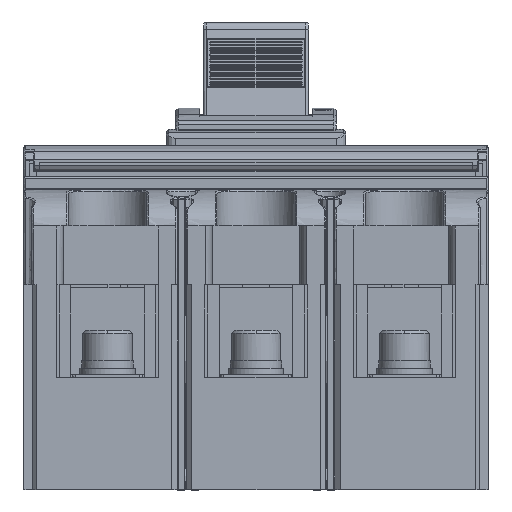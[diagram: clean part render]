
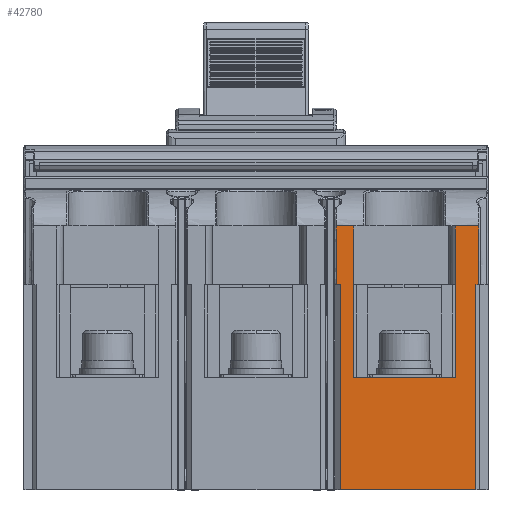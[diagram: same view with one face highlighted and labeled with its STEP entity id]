
A CAD part, front view. The second image highlights one B-rep face of the part: STEP entity #42780.
In plain terms, the highlighted free-form (B-spline) face has degree [1, 1] with [2, 2] control points.
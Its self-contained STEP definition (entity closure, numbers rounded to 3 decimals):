
#35756 = CARTESIAN_POINT ('', (31.6, -128.5, 86.342));
#35757 = VERTEX_POINT ('', #35756);
#35765 = CARTESIAN_POINT ('', (31.6, -128.5, 67.295));
#35766 = VERTEX_POINT ('', #35765);
#35767 = CARTESIAN_POINT ('', (31.6, -128.5, 67.295));
#35768 = CARTESIAN_POINT ('', (31.6, -128.5, 86.342));
#35769 = B_SPLINE_CURVE_WITH_KNOTS ('', 1, (#35767, #35768), .UNSPECIFIED., .F., .U., (2, 2), (0., 1.), .UNSPECIFIED.);
#35770 = EDGE_CURVE ('', #35766, #35757, #35769, .T.);
#35787 = CARTESIAN_POINT ('', (31.4, -128.5, 67.295));
#35788 = VERTEX_POINT ('', #35787);
#35789 = CARTESIAN_POINT ('', (31.4, -128.5, 67.295));
#35790 = CARTESIAN_POINT ('', (31.6, -128.5, 67.295));
#35791 = B_SPLINE_CURVE_WITH_KNOTS ('', 1, (#35789, #35790), .UNSPECIFIED., .F., .U., (2, 2), (0., 1.), .UNSPECIFIED.);
#35792 = EDGE_CURVE ('', #35788, #35766, #35791, .T.);
#36018 = CARTESIAN_POINT ('', (64.6, -128.5, 67.295));
#36019 = VERTEX_POINT ('', #36018);
#36025 = CARTESIAN_POINT ('', (64.4, -128.5, 67.295));
#36026 = VERTEX_POINT ('', #36025);
#36027 = CARTESIAN_POINT ('', (64.4, -128.5, 67.295));
#36028 = CARTESIAN_POINT ('', (64.6, -128.5, 67.295));
#36029 = B_SPLINE_CURVE_WITH_KNOTS ('', 1, (#36027, #36028), .UNSPECIFIED., .F., .U., (2, 2), (0., 1.), .UNSPECIFIED.);
#36030 = EDGE_CURVE ('', #36026, #36019, #36029, .T.);
#36229 = CARTESIAN_POINT ('', (64.4, -128.5, 86.342));
#36230 = VERTEX_POINT ('', #36229);
#36231 = CARTESIAN_POINT ('', (64.4, -128.5, 67.295));
#36232 = CARTESIAN_POINT ('', (64.4, -128.5, 86.342));
#36233 = B_SPLINE_CURVE_WITH_KNOTS ('', 1, (#36231, #36232), .UNSPECIFIED., .F., .U., (2, 2), (0., 1.), .UNSPECIFIED.);
#36234 = EDGE_CURVE ('', #36026, #36230, #36233, .T.);
#36710 = CARTESIAN_POINT ('', (71.95, -128.5, 86.342));
#36711 = VERTEX_POINT ('', #36710);
#36712 = CARTESIAN_POINT ('', (64.4, -128.5, 86.342));
#36713 = CARTESIAN_POINT ('', (71.95, -128.5, 86.342));
#36714 = B_SPLINE_CURVE_WITH_KNOTS ('', 1, (#36712, #36713), .UNSPECIFIED., .F., .U., (2, 2), (0., 1.), .UNSPECIFIED.);
#36715 = EDGE_CURVE ('', #36230, #36711, #36714, .T.);
#40762 = CARTESIAN_POINT ('', (25.9, -128.5, 86.342));
#40763 = VERTEX_POINT ('', #40762);
#40774 = CARTESIAN_POINT ('', (25.9, -128.5, 86.342));
#40775 = CARTESIAN_POINT ('', (31.6, -128.5, 86.342));
#40776 = B_SPLINE_CURVE_WITH_KNOTS ('', 1, (#40774, #40775), .UNSPECIFIED., .F., .U., (2, 2), (0., 1.), .UNSPECIFIED.);
#40777 = EDGE_CURVE ('', #40763, #35757, #40776, .T.);
#42606 = CARTESIAN_POINT ('', (27.199, -128.5, 67.295));
#42607 = VERTEX_POINT ('', #42606);
#42615 = CARTESIAN_POINT ('', (25.9, -128.5, 67.295));
#42616 = VERTEX_POINT ('', #42615);
#42617 = CARTESIAN_POINT ('', (25.9, -128.5, 67.295));
#42618 = CARTESIAN_POINT ('', (27.199, -128.5, 67.295));
#42619 = B_SPLINE_CURVE_WITH_KNOTS ('', 1, (#42617, #42618), .UNSPECIFIED., .F., .U., (2, 2), (0., 1.), .UNSPECIFIED.);
#42620 = EDGE_CURVE ('', #42616, #42607, #42619, .T.);
#42694 = CARTESIAN_POINT ('', (27.199, -128.5, 1.));
#42695 = VERTEX_POINT ('', #42694);
#42701 = CARTESIAN_POINT ('', (27.199, -128.5, 1.));
#42702 = CARTESIAN_POINT ('', (27.199, -128.5, 67.295));
#42703 = B_SPLINE_CURVE_WITH_KNOTS ('', 1, (#42701, #42702), .UNSPECIFIED., .F., .U., (2, 2), (0., 1.), .UNSPECIFIED.);
#42704 = EDGE_CURVE ('', #42695, #42607, #42703, .T.);
#42715 = CARTESIAN_POINT ('', (31.4, -128.5, 37.413));
#42716 = VERTEX_POINT ('', #42715);
#42717 = CARTESIAN_POINT ('', (64.6, -128.5, 37.413));
#42718 = VERTEX_POINT ('', #42717);
#42719 = CARTESIAN_POINT ('', (31.4, -128.5, 37.413));
#42720 = CARTESIAN_POINT ('', (64.6, -128.5, 37.413));
#42721 = B_SPLINE_CURVE_WITH_KNOTS ('', 1, (#42719, #42720), .UNSPECIFIED., .F., .U., (2, 2), (0., 1.), .UNSPECIFIED.);
#42722 = EDGE_CURVE ('', #42716, #42718, #42721, .T.);
#42723 = ORIENTED_EDGE ('', *, *, #42722, .F.);
#42724 = CARTESIAN_POINT ('', (31.4, -128.5, 67.295));
#42725 = CARTESIAN_POINT ('', (31.4, -128.5, 37.413));
#42726 = B_SPLINE_CURVE_WITH_KNOTS ('', 1, (#42724, #42725), .UNSPECIFIED., .F., .U., (2, 2), (0., 1.), .UNSPECIFIED.);
#42727 = EDGE_CURVE ('', #35788, #42716, #42726, .T.);
#42728 = ORIENTED_EDGE ('', *, *, #42727, .F.);
#42729 = ORIENTED_EDGE ('', *, *, #35792, .T.);
#42730 = ORIENTED_EDGE ('', *, *, #35770, .T.);
#42731 = ORIENTED_EDGE ('', *, *, #40777, .F.);
#42732 = CARTESIAN_POINT ('', (25.9, -128.5, 86.342));
#42733 = CARTESIAN_POINT ('', (25.9, -128.5, 67.295));
#42734 = B_SPLINE_CURVE_WITH_KNOTS ('', 1, (#42732, #42733), .UNSPECIFIED., .F., .U., (2, 2), (0., 1.), .UNSPECIFIED.);
#42735 = EDGE_CURVE ('', #40763, #42616, #42734, .T.);
#42736 = ORIENTED_EDGE ('', *, *, #42735, .T.);
#42737 = ORIENTED_EDGE ('', *, *, #42620, .T.);
#42738 = ORIENTED_EDGE ('', *, *, #42704, .F.);
#42739 = CARTESIAN_POINT ('', (71.1, -128.5, 1.));
#42740 = VERTEX_POINT ('', #42739);
#42741 = CARTESIAN_POINT ('', (27.199, -128.5, 1.));
#42742 = CARTESIAN_POINT ('', (71.1, -128.5, 1.));
#42743 = B_SPLINE_CURVE_WITH_KNOTS ('', 1, (#42741, #42742), .UNSPECIFIED., .F., .U., (2, 2), (0., 1.), .UNSPECIFIED.);
#42744 = EDGE_CURVE ('', #42695, #42740, #42743, .T.);
#42745 = ORIENTED_EDGE ('', *, *, #42744, .T.);
#42746 = CARTESIAN_POINT ('', (71.1, -128.5, 67.295));
#42747 = VERTEX_POINT ('', #42746);
#42748 = CARTESIAN_POINT ('', (71.1, -128.5, 1.));
#42749 = CARTESIAN_POINT ('', (71.1, -128.5, 67.295));
#42750 = B_SPLINE_CURVE_WITH_KNOTS ('', 1, (#42748, #42749), .UNSPECIFIED., .F., .U., (2, 2), (0., 1.), .UNSPECIFIED.);
#42751 = EDGE_CURVE ('', #42740, #42747, #42750, .T.);
#42752 = ORIENTED_EDGE ('', *, *, #42751, .T.);
#42753 = CARTESIAN_POINT ('', (71.95, -128.5, 67.295));
#42754 = VERTEX_POINT ('', #42753);
#42755 = CARTESIAN_POINT ('', (71.1, -128.5, 67.295));
#42756 = CARTESIAN_POINT ('', (71.95, -128.5, 67.295));
#42757 = B_SPLINE_CURVE_WITH_KNOTS ('', 1, (#42755, #42756), .UNSPECIFIED., .F., .U., (2, 2), (0., 1.), .UNSPECIFIED.);
#42758 = EDGE_CURVE ('', #42747, #42754, #42757, .T.);
#42759 = ORIENTED_EDGE ('', *, *, #42758, .T.);
#42760 = CARTESIAN_POINT ('', (71.95, -128.5, 67.295));
#42761 = CARTESIAN_POINT ('', (71.95, -128.5, 86.342));
#42762 = B_SPLINE_CURVE_WITH_KNOTS ('', 1, (#42760, #42761), .UNSPECIFIED., .F., .U., (2, 2), (0., 1.), .UNSPECIFIED.);
#42763 = EDGE_CURVE ('', #42754, #36711, #42762, .T.);
#42764 = ORIENTED_EDGE ('', *, *, #42763, .T.);
#42765 = ORIENTED_EDGE ('', *, *, #36715, .F.);
#42766 = ORIENTED_EDGE ('', *, *, #36234, .F.);
#42767 = ORIENTED_EDGE ('', *, *, #36030, .T.);
#42768 = CARTESIAN_POINT ('', (64.6, -128.5, 67.295));
#42769 = CARTESIAN_POINT ('', (64.6, -128.5, 37.413));
#42770 = B_SPLINE_CURVE_WITH_KNOTS ('', 1, (#42768, #42769), .UNSPECIFIED., .F., .U., (2, 2), (0., 1.), .UNSPECIFIED.);
#42771 = EDGE_CURVE ('', #36019, #42718, #42770, .T.);
#42772 = ORIENTED_EDGE ('', *, *, #42771, .T.);
#42773 = EDGE_LOOP ('', (#42723, #42728, #42729, #42730, #42731, #42736, #42737, #42738, #42745, #42752, #42759, #42764, #42765, #42766, #42767, #42772));
#42774 = FACE_OUTER_BOUND ('', #42773, .T.);
#42775 = CARTESIAN_POINT ('', (25.899, -128.5, 0.999));
#42776 = CARTESIAN_POINT ('', (25.899, -128.5, 86.343));
#42777 = CARTESIAN_POINT ('', (71.951, -128.5, 0.999));
#42778 = CARTESIAN_POINT ('', (71.951, -128.5, 86.343));
#42779 = B_SPLINE_SURFACE_WITH_KNOTS ('', 1, 1, ((#42775, #42776), (#42777, #42778)), .UNSPECIFIED., .F., .F., .U., (2, 2), (2, 2), (100.899, 146.951), (-0.001, 86.251), .UNSPECIFIED.);
#42780 = ADVANCED_FACE ('', (#42774), #42779, .T.);
